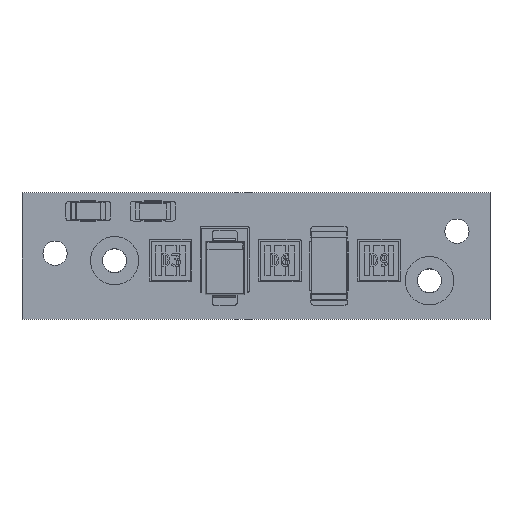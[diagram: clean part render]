
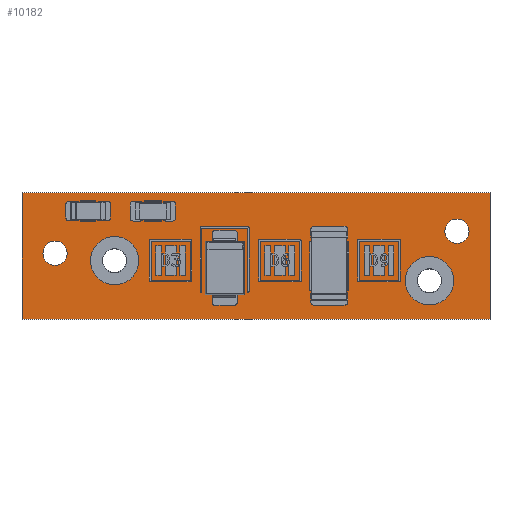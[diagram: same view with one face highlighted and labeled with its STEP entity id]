
A CAD part, top view. The second image highlights one B-rep face of the part: STEP entity #10182.
In plain terms, the highlighted planar face has unit normal (0, 0, 1).
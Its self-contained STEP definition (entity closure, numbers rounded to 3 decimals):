
#10026 = VERTEX_POINT('',#10027);
#10027 = CARTESIAN_POINT('',(103.5,-50.,1.51));
#10033 = EDGE_CURVE('',#10026,#10034,#10036,.T.);
#10034 = VERTEX_POINT('',#10035);
#10035 = CARTESIAN_POINT('',(61.,-50.,1.51));
#10036 = LINE('',#10037,#10038);
#10037 = CARTESIAN_POINT('',(103.5,-50.,1.51));
#10038 = VECTOR('',#10039,1.);
#10039 = DIRECTION('',(-1.,0.,0.));
#10066 = VERTEX_POINT('',#10067);
#10067 = CARTESIAN_POINT('',(103.5,-38.5,1.51));
#10073 = EDGE_CURVE('',#10066,#10026,#10074,.T.);
#10074 = LINE('',#10075,#10076);
#10075 = CARTESIAN_POINT('',(103.5,-38.5,1.51));
#10076 = VECTOR('',#10077,1.);
#10077 = DIRECTION('',(0.,-1.,0.));
#10095 = EDGE_CURVE('',#10034,#10096,#10098,.T.);
#10096 = VERTEX_POINT('',#10097);
#10097 = CARTESIAN_POINT('',(61.,-38.5,1.51));
#10098 = LINE('',#10099,#10100);
#10099 = CARTESIAN_POINT('',(61.,-50.,1.51));
#10100 = VECTOR('',#10101,1.);
#10101 = DIRECTION('',(0.,1.,0.));
#10182 = ADVANCED_FACE('',(#10183,#10194,#10205,#10216,#10227),#10238,
  .T.);
#10183 = FACE_BOUND('',#10184,.T.);
#10184 = EDGE_LOOP('',(#10185,#10186,#10187,#10193));
#10185 = ORIENTED_EDGE('',*,*,#10033,.F.);
#10186 = ORIENTED_EDGE('',*,*,#10073,.F.);
#10187 = ORIENTED_EDGE('',*,*,#10188,.F.);
#10188 = EDGE_CURVE('',#10096,#10066,#10189,.T.);
#10189 = LINE('',#10190,#10191);
#10190 = CARTESIAN_POINT('',(61.,-38.5,1.51));
#10191 = VECTOR('',#10192,1.);
#10192 = DIRECTION('',(1.,0.,0.));
#10193 = ORIENTED_EDGE('',*,*,#10095,.F.);
#10194 = FACE_BOUND('',#10195,.T.);
#10195 = EDGE_LOOP('',(#10196));
#10196 = ORIENTED_EDGE('',*,*,#10197,.T.);
#10197 = EDGE_CURVE('',#10198,#10198,#10200,.T.);
#10198 = VERTEX_POINT('',#10199);
#10199 = CARTESIAN_POINT('',(69.408,-45.776,1.51));
#10200 = CIRCLE('',#10201,1.1);
#10201 = AXIS2_PLACEMENT_3D('',#10202,#10203,#10204);
#10202 = CARTESIAN_POINT('',(69.408,-44.676,1.51));
#10203 = DIRECTION('',(-0.,0.,-1.));
#10204 = DIRECTION('',(0.,-1.,0.));
#10205 = FACE_BOUND('',#10206,.T.);
#10206 = EDGE_LOOP('',(#10207));
#10207 = ORIENTED_EDGE('',*,*,#10208,.T.);
#10208 = EDGE_CURVE('',#10209,#10209,#10211,.T.);
#10209 = VERTEX_POINT('',#10210);
#10210 = CARTESIAN_POINT('',(98.,-47.6,1.51));
#10211 = CIRCLE('',#10212,1.1);
#10212 = AXIS2_PLACEMENT_3D('',#10213,#10214,#10215);
#10213 = CARTESIAN_POINT('',(98.,-46.5,1.51));
#10214 = DIRECTION('',(-0.,0.,-1.));
#10215 = DIRECTION('',(-0.,-1.,0.));
#10216 = FACE_BOUND('',#10217,.T.);
#10217 = EDGE_LOOP('',(#10218));
#10218 = ORIENTED_EDGE('',*,*,#10219,.T.);
#10219 = EDGE_CURVE('',#10220,#10220,#10222,.T.);
#10220 = VERTEX_POINT('',#10221);
#10221 = CARTESIAN_POINT('',(64.,-45.1,1.51));
#10222 = CIRCLE('',#10223,1.1);
#10223 = AXIS2_PLACEMENT_3D('',#10224,#10225,#10226);
#10224 = CARTESIAN_POINT('',(64.,-44.,1.51));
#10225 = DIRECTION('',(-0.,0.,-1.));
#10226 = DIRECTION('',(-0.,-1.,0.));
#10227 = FACE_BOUND('',#10228,.T.);
#10228 = EDGE_LOOP('',(#10229));
#10229 = ORIENTED_EDGE('',*,*,#10230,.T.);
#10230 = EDGE_CURVE('',#10231,#10231,#10233,.T.);
#10231 = VERTEX_POINT('',#10232);
#10232 = CARTESIAN_POINT('',(100.5,-43.1,1.51));
#10233 = CIRCLE('',#10234,1.1);
#10234 = AXIS2_PLACEMENT_3D('',#10235,#10236,#10237);
#10235 = CARTESIAN_POINT('',(100.5,-42.,1.51));
#10236 = DIRECTION('',(-0.,0.,-1.));
#10237 = DIRECTION('',(-0.,-1.,0.));
#10238 = PLANE('',#10239);
#10239 = AXIS2_PLACEMENT_3D('',#10240,#10241,#10242);
#10240 = CARTESIAN_POINT('',(0.,0.,1.51));
#10241 = DIRECTION('',(0.,0.,1.));
#10242 = DIRECTION('',(1.,0.,-0.));
